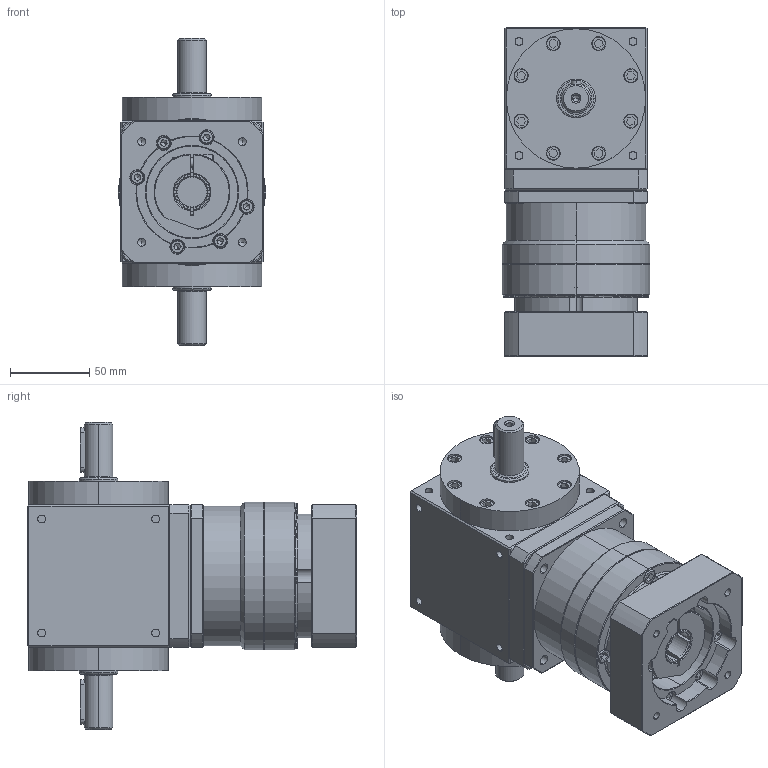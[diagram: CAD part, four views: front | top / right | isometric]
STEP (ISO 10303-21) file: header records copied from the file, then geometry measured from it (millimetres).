
FILE_DESCRIPTION (( 'STEP AP203' ), '1' );
FILE_NAME ('AT090-FL-L1 19-70-90-M6.STEP', '2024-12-19T08:00:31', ( '' ), ( '' ), 'SwSTEP 2.0', 'SolidWorks 2021', '' );
FILE_SCHEMA (( 'CONFIG_CONTROL_DESIGN' ));
Length unit declared in the file: millimetre
Products named in the file (3): AT090-FL-L1 19-70-90-M6; AT090-FL; VRB-090-L1-S2-P1 19-70-90-M6
Assembly tree (2 placements, depth 2):
  AT090-FL-L1 19-70-90-M6
    AT090-FL
    VRB-090-L1-S2-P1 19-70-90-M6
Bounding box: 93 x 208 x 194 mm (x, y, z)
Volume: 1656391.3 mm3; surface area: 209561.2 mm2
Topology: 32 solids, 32 shells, 1340 faces, 3240 edges, 2016 vertices
Faces by surface type: plane 582, cylinder 511, cone 201, torus 38, bspline 8
Entity records: 41439 total; most frequent: CARTESIAN_POINT 9716, DIRECTION 6875, ORIENTED_EDGE 6348, EDGE_CURVE 3174, AXIS2_PLACEMENT_3D 2660, VERTEX_POINT 2016, LINE 1555, VECTOR 1555
